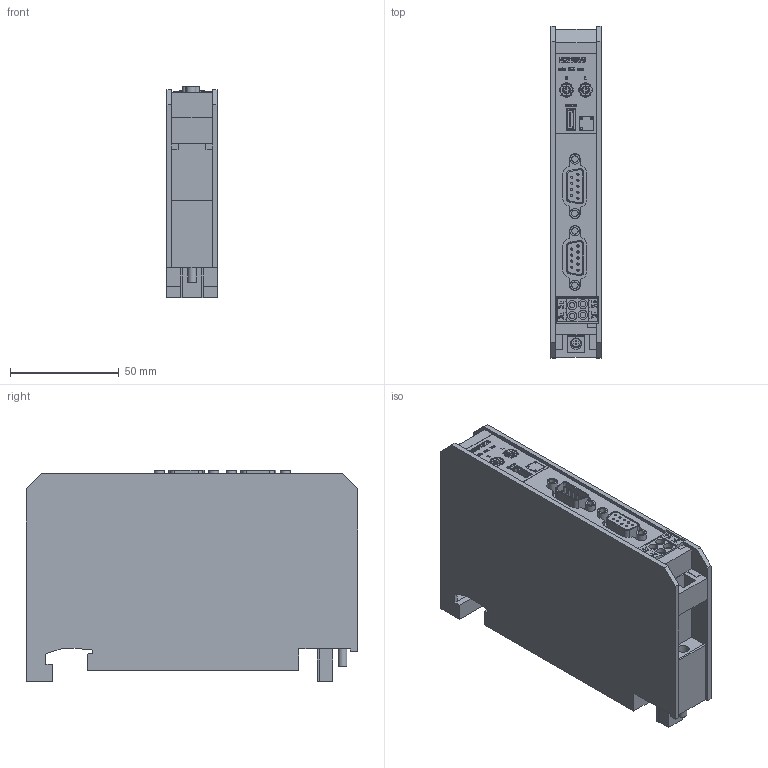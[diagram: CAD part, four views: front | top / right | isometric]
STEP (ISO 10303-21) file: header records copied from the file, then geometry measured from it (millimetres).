
FILE_DESCRIPTION(/* description */ ('NCN102/D'),/* implementation_level */ '2;1');
FILE_NAME(/* name */ '00039061.stp',/* time_stamp */ '2026-06-09T09:30:45+02:00',/* author */ ('MASH'),/* organization */ ('2026 Bachmann electronic GmbH'),/* preprocessor_version */ 'ST-DEVELOPER v20.1',/* originating_system */ 'Autodesk Inventor 2026',/* authorisation */ '-');
FILE_SCHEMA (('AUTOMOTIVE_DESIGN { 1 0 10303 214 3 1 1 }'));
Length unit declared in the file: millimetre
Products named in the file (1): 00039061
Bounding box: 23.1 x 152.5 x 97.26 mm (x, y, z)
Volume: 291269.3 mm3; surface area: 59590.6 mm2
Topology: 13 solids, 14 shells, 1490 faces, 3787 edges, 2520 vertices
Faces by surface type: plane 975, bspline 368, cylinder 138, torus 9
Full cylindrical faces by diameter (mm): 0.4 x38, 1 x22, 2.5 x4, 3 x5, 3.2 x4, 3.6 x2, 4 x1, 4.23 x4, 4.619 x4, 5 x1, 5.3 x1
Entity records: 46947 total; most frequent: CARTESIAN_POINT 11548, ORIENTED_EDGE 7574, DIRECTION 5601, EDGE_CURVE 3787, LINE 2745, VECTOR 2745, VERTEX_POINT 2520, EDGE_LOOP 1695
